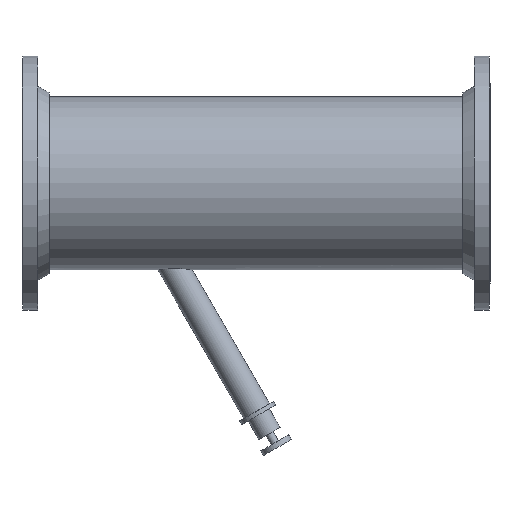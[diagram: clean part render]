
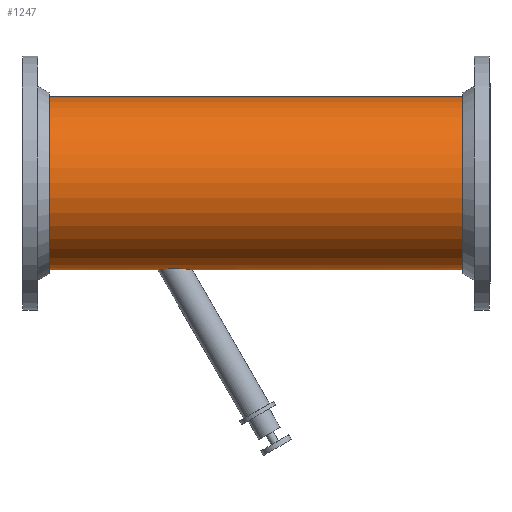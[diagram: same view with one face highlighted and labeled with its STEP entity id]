
A CAD part, top view. The second image highlights one B-rep face of the part: STEP entity #1247.
In plain terms, the highlighted cylindrical face has radius 203.2 mm (diameter 406.4 mm), a full revolution.
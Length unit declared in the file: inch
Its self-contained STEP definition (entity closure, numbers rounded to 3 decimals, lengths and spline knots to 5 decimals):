
#136=B_SPLINE_CURVE_WITH_KNOTS('',3,(#1945,#1946,#1947,#1948,#1949,#1950,
#1951,#1952,#1953,#1954,#1955,#1956,#1957,#1958,#1959,#1960,#1961,#1962,
#1963,#1964,#1965,#1966,#1967,#1968,#1969,#1970,#1971,#1972,#1973,#1974,
#1975,#1976,#1977,#1978),.UNSPECIFIED.,.F.,.F.,(4,2,2,2,2,2,2,2,2,2,2,2,
2,2,2,2,4),(5.80788,6.46625,7.12462,7.78299,
8.44136,9.23496,10.02856,10.82216,11.61575,
12.35683,13.0979,13.83897,14.58005,15.23168,
15.8833,16.53493,17.18656),.UNSPECIFIED.);
#137=B_SPLINE_CURVE_WITH_KNOTS('',3,(#1985,#1986,#1987,#1988,#1989,#1990,
#1991,#1992,#1993,#1994,#1995,#1996,#1997,#1998,#1999,#2000,#2001,#2002),
 .UNSPECIFIED.,.F.,.F.,(4,2,2,2,2,2,2,2,4),(17.18656,17.83818,
18.48981,19.14144,19.79306,20.53414,21.27521,
22.01628,22.75736),.UNSPECIFIED.);
#138=B_SPLINE_CURVE_WITH_KNOTS('',3,(#2003,#2004,#2005,#2006,#2007,#2008,
#2009,#2010,#2011,#2012,#2013,#2014,#2015,#2016,#2017,#2018,#2019,#2020),
 .UNSPECIFIED.,.F.,.F.,(4,2,2,2,2,2,2,2,4),(0.,0.7936,1.5872,
2.38079,3.17439,3.83276,4.49113,5.14951,
5.80788),.UNSPECIFIED.);
#140=FACE_OUTER_BOUND('',#198,.T.);
#198=EDGE_LOOP('',(#823,#824,#825,#826,#827,#828,#829,#830,#831,#832,#833));
#332=LINE('',#1943,#378);
#333=LINE('',#1980,#379);
#378=VECTOR('',#1526,8.);
#379=VECTOR('',#1527,8.);
#427=CIRCLE('',#1330,8.);
#428=CIRCLE('',#1331,8.);
#429=CIRCLE('',#1332,8.);
#430=CIRCLE('',#1333,8.);
#541=VERTEX_POINT('',#1939);
#542=VERTEX_POINT('',#1940);
#543=VERTEX_POINT('',#1942);
#544=VERTEX_POINT('',#1944);
#545=VERTEX_POINT('',#1979);
#546=VERTEX_POINT('',#1981);
#547=VERTEX_POINT('',#1984);
#659=EDGE_CURVE('',#541,#542,#427,.T.);
#660=EDGE_CURVE('',#542,#543,#332,.T.);
#661=EDGE_CURVE('',#543,#544,#136,.T.);
#662=EDGE_CURVE('',#544,#545,#333,.T.);
#663=EDGE_CURVE('',#545,#546,#428,.T.);
#664=EDGE_CURVE('',#546,#545,#429,.T.);
#665=EDGE_CURVE('',#544,#547,#137,.T.);
#666=EDGE_CURVE('',#547,#543,#138,.T.);
#667=EDGE_CURVE('',#542,#541,#430,.T.);
#823=ORIENTED_EDGE('',*,*,#659,.T.);
#824=ORIENTED_EDGE('',*,*,#660,.T.);
#825=ORIENTED_EDGE('',*,*,#661,.T.);
#826=ORIENTED_EDGE('',*,*,#662,.T.);
#827=ORIENTED_EDGE('',*,*,#663,.T.);
#828=ORIENTED_EDGE('',*,*,#664,.T.);
#829=ORIENTED_EDGE('',*,*,#662,.F.);
#830=ORIENTED_EDGE('',*,*,#665,.T.);
#831=ORIENTED_EDGE('',*,*,#666,.T.);
#832=ORIENTED_EDGE('',*,*,#660,.F.);
#833=ORIENTED_EDGE('',*,*,#667,.T.);
#1144=CYLINDRICAL_SURFACE('',#1329,8.);
#1247=ADVANCED_FACE('',(#140),#1144,.T.);
#1329=AXIS2_PLACEMENT_3D('',#1938,#1522,#1523);
#1330=AXIS2_PLACEMENT_3D('',#1941,#1524,#1525);
#1331=AXIS2_PLACEMENT_3D('',#1982,#1528,#1529);
#1332=AXIS2_PLACEMENT_3D('',#1983,#1530,#1531);
#1333=AXIS2_PLACEMENT_3D('',#2021,#1532,#1533);
#1522=DIRECTION('center_axis',(1.,0.,0.));
#1523=DIRECTION('ref_axis',(0.,1.,0.));
#1524=DIRECTION('center_axis',(-1.,0.,0.));
#1525=DIRECTION('ref_axis',(0.,1.,0.));
#1526=DIRECTION('',(-1.,0.,0.));
#1527=DIRECTION('',(-1.,0.,0.));
#1528=DIRECTION('center_axis',(1.,0.,0.));
#1529=DIRECTION('ref_axis',(0.,1.,0.));
#1530=DIRECTION('center_axis',(1.,0.,0.));
#1531=DIRECTION('ref_axis',(0.,1.,0.));
#1532=DIRECTION('center_axis',(-1.,0.,0.));
#1533=DIRECTION('ref_axis',(0.,1.,0.));
#1938=CARTESIAN_POINT('Origin',(0.,0.,0.));
#1939=CARTESIAN_POINT('',(19.155,8.,0.));
#1940=CARTESIAN_POINT('',(19.155,-8.,0.));
#1941=CARTESIAN_POINT('Origin',(19.155,0.,0.));
#1942=CARTESIAN_POINT('',(-5.9097,-8.,0.));
#1943=CARTESIAN_POINT('',(0.,-8.,0.));
#1944=CARTESIAN_POINT('',(-9.08513,-8.,0.));
#1945=CARTESIAN_POINT('Ctrl Pts',(-5.9097,-8.,0.));
#1946=CARTESIAN_POINT('Ctrl Pts',(-5.9097,-8.,-0.0864));
#1947=CARTESIAN_POINT('Ctrl Pts',(-5.92009,-7.99856,-0.1748));
#1948=CARTESIAN_POINT('Ctrl Pts',(-5.96233,-7.99287,-0.34875));
#1949=CARTESIAN_POINT('Ctrl Pts',(-5.99416,-7.98862,-0.43431));
#1950=CARTESIAN_POINT('Ctrl Pts',(-6.07606,-7.97813,-0.59672));
#1951=CARTESIAN_POINT('Ctrl Pts',(-6.12619,-7.97189,-0.67374));
#1952=CARTESIAN_POINT('Ctrl Pts',(-6.23894,-7.95868,-0.81512));
#1953=CARTESIAN_POINT('Ctrl Pts',(-6.30156,-7.95172,-0.87948));
#1954=CARTESIAN_POINT('Ctrl Pts',(-6.44446,-7.93696,-1.00466));
#1955=CARTESIAN_POINT('Ctrl Pts',(-6.53194,-7.92865,-1.06754));
#1956=CARTESIAN_POINT('Ctrl Pts',(-6.72034,-7.91307,-1.17746));
#1957=CARTESIAN_POINT('Ctrl Pts',(-6.82126,-7.90582,-1.22452));
#1958=CARTESIAN_POINT('Ctrl Pts',(-7.03007,-7.89376,-1.30002));
#1959=CARTESIAN_POINT('Ctrl Pts',(-7.13806,-7.88894,-1.32851));
#1960=CARTESIAN_POINT('Ctrl Pts',(-7.35402,-7.88254,-1.366));
#1961=CARTESIAN_POINT('Ctrl Pts',(-7.462,-7.88095,-1.375));
#1962=CARTESIAN_POINT('Ctrl Pts',(-7.6634,-7.88095,-1.375));
#1963=CARTESIAN_POINT('Ctrl Pts',(-7.76443,-7.88234,-1.36714));
#1964=CARTESIAN_POINT('Ctrl Pts',(-7.96613,-7.88822,-1.33277));
#1965=CARTESIAN_POINT('Ctrl Pts',(-8.06681,-7.89272,-1.30625));
#1966=CARTESIAN_POINT('Ctrl Pts',(-8.26038,-7.90427,-1.23442));
#1967=CARTESIAN_POINT('Ctrl Pts',(-8.35343,-7.91133,-1.18905));
#1968=CARTESIAN_POINT('Ctrl Pts',(-8.52563,-7.92668,-1.08197));
#1969=CARTESIAN_POINT('Ctrl Pts',(-8.60477,-7.93496,-1.02026));
#1970=CARTESIAN_POINT('Ctrl Pts',(-8.73614,-7.9501,-0.89409));
#1971=CARTESIAN_POINT('Ctrl Pts',(-8.79422,-7.95745,-0.82723));
#1972=CARTESIAN_POINT('Ctrl Pts',(-8.89695,-7.9713,-0.68104));
#1973=CARTESIAN_POINT('Ctrl Pts',(-8.94161,-7.97777,-0.60171));
#1974=CARTESIAN_POINT('Ctrl Pts',(-9.01346,-7.98856,-0.4357));
#1975=CARTESIAN_POINT('Ctrl Pts',(-9.04074,-7.99287,-0.34886));
#1976=CARTESIAN_POINT('Ctrl Pts',(-9.07657,-7.99859,-0.17377));
#1977=CARTESIAN_POINT('Ctrl Pts',(-9.08513,-8.,-0.08552));
#1978=CARTESIAN_POINT('Ctrl Pts',(-9.08513,-8.,0.));
#1979=CARTESIAN_POINT('',(-19.155,-8.,0.));
#1980=CARTESIAN_POINT('',(0.,-8.,0.));
#1981=CARTESIAN_POINT('',(-19.155,8.,0.));
#1982=CARTESIAN_POINT('Origin',(-19.155,0.,0.));
#1983=CARTESIAN_POINT('Origin',(-19.155,0.,0.));
#1984=CARTESIAN_POINT('',(-7.56615,-7.88095,1.375));
#1985=CARTESIAN_POINT('Ctrl Pts',(-9.08513,-8.,0.));
#1986=CARTESIAN_POINT('Ctrl Pts',(-9.08513,-8.,0.08552));
#1987=CARTESIAN_POINT('Ctrl Pts',(-9.07657,-7.99859,0.17377));
#1988=CARTESIAN_POINT('Ctrl Pts',(-9.04074,-7.99287,0.34886));
#1989=CARTESIAN_POINT('Ctrl Pts',(-9.01346,-7.98856,0.4357));
#1990=CARTESIAN_POINT('Ctrl Pts',(-8.94161,-7.97777,0.60171));
#1991=CARTESIAN_POINT('Ctrl Pts',(-8.89695,-7.9713,0.68104));
#1992=CARTESIAN_POINT('Ctrl Pts',(-8.79422,-7.95745,0.82723));
#1993=CARTESIAN_POINT('Ctrl Pts',(-8.73614,-7.9501,0.89409));
#1994=CARTESIAN_POINT('Ctrl Pts',(-8.60477,-7.93496,1.02026));
#1995=CARTESIAN_POINT('Ctrl Pts',(-8.52563,-7.92668,1.08197));
#1996=CARTESIAN_POINT('Ctrl Pts',(-8.35343,-7.91133,1.18905));
#1997=CARTESIAN_POINT('Ctrl Pts',(-8.26038,-7.90427,1.23442));
#1998=CARTESIAN_POINT('Ctrl Pts',(-8.06681,-7.89272,1.30625));
#1999=CARTESIAN_POINT('Ctrl Pts',(-7.96613,-7.88822,1.33277));
#2000=CARTESIAN_POINT('Ctrl Pts',(-7.76443,-7.88234,1.36714));
#2001=CARTESIAN_POINT('Ctrl Pts',(-7.6634,-7.88095,1.375));
#2002=CARTESIAN_POINT('Ctrl Pts',(-7.56615,-7.88095,1.375));
#2003=CARTESIAN_POINT('Ctrl Pts',(-7.56615,-7.88095,1.375));
#2004=CARTESIAN_POINT('Ctrl Pts',(-7.462,-7.88095,1.375));
#2005=CARTESIAN_POINT('Ctrl Pts',(-7.35402,-7.88254,1.366));
#2006=CARTESIAN_POINT('Ctrl Pts',(-7.13806,-7.88894,1.32851));
#2007=CARTESIAN_POINT('Ctrl Pts',(-7.03007,-7.89376,1.30002));
#2008=CARTESIAN_POINT('Ctrl Pts',(-6.82126,-7.90582,1.22452));
#2009=CARTESIAN_POINT('Ctrl Pts',(-6.72034,-7.91307,1.17746));
#2010=CARTESIAN_POINT('Ctrl Pts',(-6.53194,-7.92865,1.06754));
#2011=CARTESIAN_POINT('Ctrl Pts',(-6.44446,-7.93696,1.00466));
#2012=CARTESIAN_POINT('Ctrl Pts',(-6.30156,-7.95172,0.87948));
#2013=CARTESIAN_POINT('Ctrl Pts',(-6.23894,-7.95868,0.81512));
#2014=CARTESIAN_POINT('Ctrl Pts',(-6.12619,-7.97189,0.67374));
#2015=CARTESIAN_POINT('Ctrl Pts',(-6.07606,-7.97813,0.59672));
#2016=CARTESIAN_POINT('Ctrl Pts',(-5.99416,-7.98862,0.43431));
#2017=CARTESIAN_POINT('Ctrl Pts',(-5.96233,-7.99287,0.34875));
#2018=CARTESIAN_POINT('Ctrl Pts',(-5.92009,-7.99856,0.1748));
#2019=CARTESIAN_POINT('Ctrl Pts',(-5.9097,-8.,0.0864));
#2020=CARTESIAN_POINT('Ctrl Pts',(-5.9097,-8.,0.));
#2021=CARTESIAN_POINT('Origin',(19.155,0.,0.));
